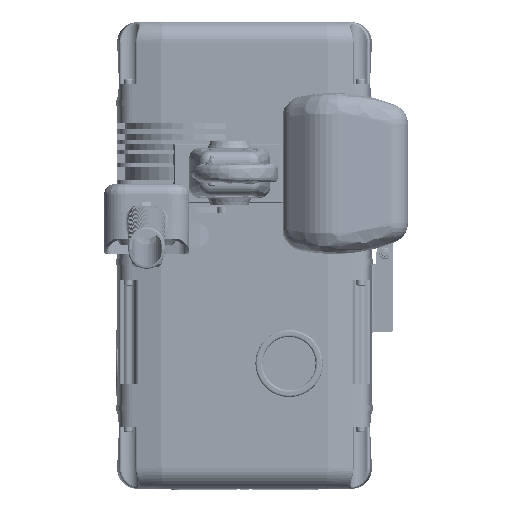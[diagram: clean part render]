
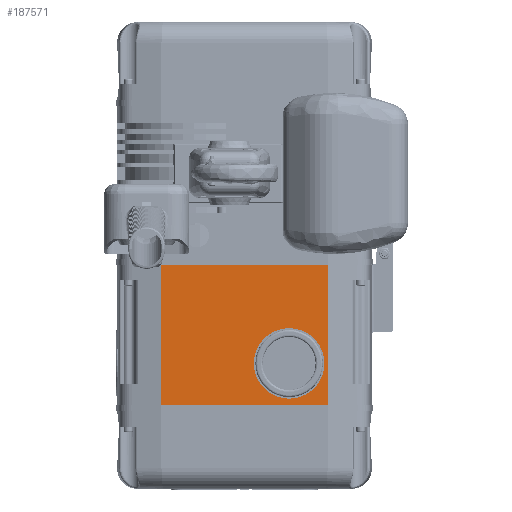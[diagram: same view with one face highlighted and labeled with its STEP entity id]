
A CAD part, front view. The second image highlights one B-rep face of the part: STEP entity #187571.
In plain terms, the highlighted planar face has unit normal (0, -1, 0).
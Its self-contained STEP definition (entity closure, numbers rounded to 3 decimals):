
#155445=CARTESIAN_POINT('',(-72.266,-90.142,-6.));
#155446=VERTEX_POINT('',#155445);
#155453=CARTESIAN_POINT('',(87.734,-90.142,-6.));
#155454=VERTEX_POINT('',#155453);
#155455=CARTESIAN_POINT('',(-72.266,-90.142,-6.));
#155456=DIRECTION('',(1.0,0.0,0.0));
#155457=VECTOR('',#155456,160.);
#155458=LINE('',#155455,#155457);
#155459=EDGE_CURVE('',#155446,#155454,#155458,.T.);
#187413=CARTESIAN_POINT('',(-72.266,-90.142,-141.));
#187414=VERTEX_POINT('',#187413);
#187421=CARTESIAN_POINT('',(-72.266,-90.142,-6.));
#187422=DIRECTION('',(0.0,0.0,-1.0));
#187423=VECTOR('',#187422,135.0);
#187424=LINE('',#187421,#187423);
#187425=EDGE_CURVE('',#155446,#187414,#187424,.T.);
#187537=CARTESIAN_POINT('',(-72.266,-90.142,-1.));
#187538=DIRECTION('',(0.0,-1.0,0.0));
#187539=DIRECTION('',(0.0,0.0,-1.0));
#187540=AXIS2_PLACEMENT_3D('',#187537,#187538,#187539);
#187541=PLANE('',#187540);
#187542=ORIENTED_EDGE('',*,*,#155459,.F.);
#187543=ORIENTED_EDGE('',*,*,#187425,.T.);
#187544=CARTESIAN_POINT('',(87.734,-90.142,-141.));
#187545=VERTEX_POINT('',#187544);
#187546=CARTESIAN_POINT('',(-72.266,-90.142,-141.));
#187547=DIRECTION('',(1.0,0.0,0.0));
#187548=VECTOR('',#187547,160.0);
#187549=LINE('',#187546,#187548);
#187550=EDGE_CURVE('',#187414,#187545,#187549,.T.);
#187551=ORIENTED_EDGE('',*,*,#187550,.T.);
#187552=CARTESIAN_POINT('',(87.734,-90.142,-6.));
#187553=DIRECTION('',(0.0,0.0,-1.0));
#187554=VECTOR('',#187553,135.0);
#187555=LINE('',#187552,#187554);
#187556=EDGE_CURVE('',#155454,#187545,#187555,.T.);
#187557=ORIENTED_EDGE('',*,*,#187556,.F.);
#187558=EDGE_LOOP('',(#187542,#187543,#187551,#187557));
#187559=FACE_OUTER_BOUND('',#187558,.T.);
#187560=CARTESIAN_POINT('',(84.734,-90.142,-101.));
#187561=VERTEX_POINT('',#187560);
#187562=CARTESIAN_POINT('',(50.734,-90.142,-101.));
#187563=DIRECTION('',(0.0,1.0,0.0));
#187564=DIRECTION('',(1.0,0.0,0.0));
#187565=AXIS2_PLACEMENT_3D('',#187562,#187563,#187564);
#187566=CIRCLE('',#187565,34.0);
#187567=EDGE_CURVE('',#187561,#187561,#187566,.T.);
#187568=ORIENTED_EDGE('',*,*,#187567,.T.);
#187569=EDGE_LOOP('',(#187568));
#187570=FACE_BOUND('',#187569,.T.);
#187571=ADVANCED_FACE('',(#187559,#187570),#187541,.T.);
